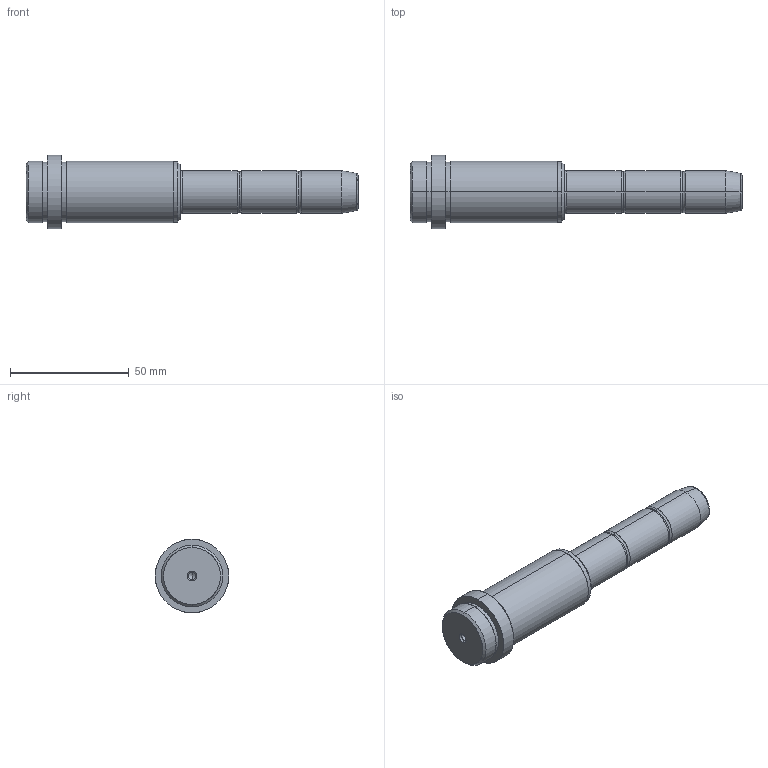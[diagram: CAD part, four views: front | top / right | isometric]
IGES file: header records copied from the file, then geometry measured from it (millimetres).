
Start section: SolidWorks IGES FILE using analytic representation for surfaces
Global section: file name: D:\zzzzz\Delta\D03\18\D03 - 18x56x75.IGS; native system: SolidWorks 2004 by SolidWorks Corporation; preprocessor: Version 5.3; author: Hkn; date: 080327.173522; units: millimetre
Bounding box: 140 x 31 x 31 mm (x, y, z)
Surface area: 11160.8 mm2 (no closed solid volume)
Topology: 0 solids, 0 shells, 56 faces, 768 edges, 764 vertices
Faces by surface type: revolution 36, bspline 20
